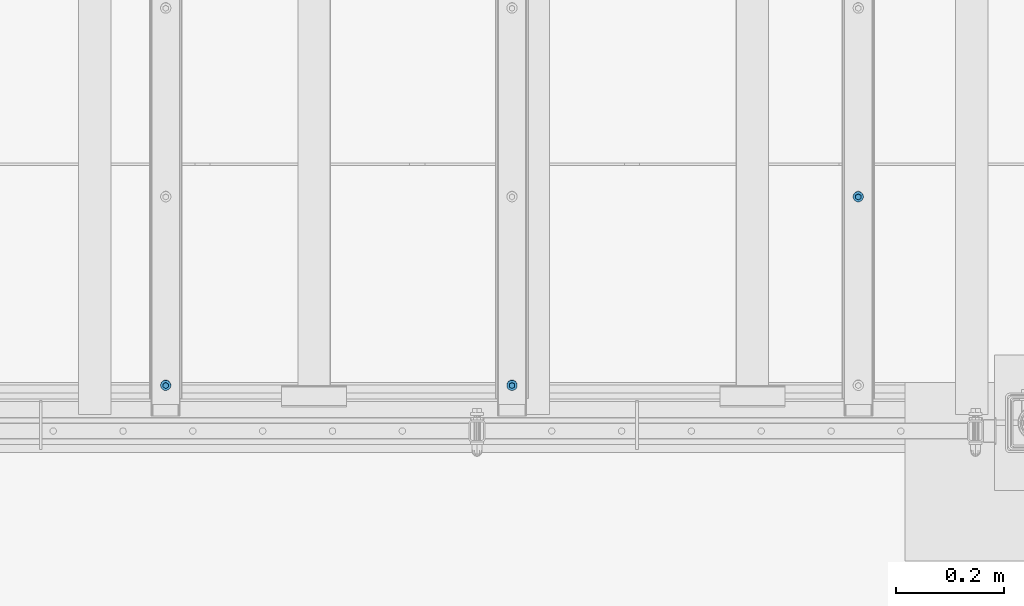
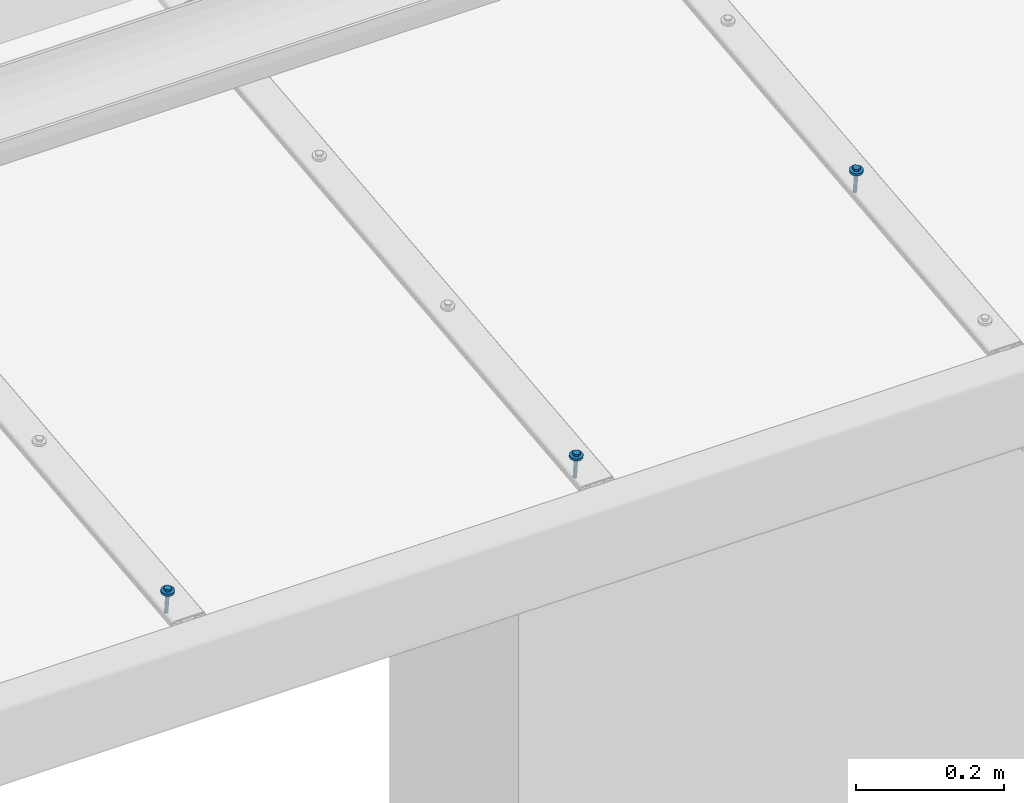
# One storey, part 71 of 162: 3 mechanical fasteners.
"""IFC2X3 building model written with IfcOpenShell, lengths in millimetres."""

from ifc_helpers import new_model, entity, si_unit, converted_unit, origin_with_axes, place, context, project, spatial, faceted_brep, element, save


model = new_model("IFC2X3")

# Units and contexts
model_context = context("Model", 3, precision=1e-09, world=origin_with_axes())
ifc_project = project(units=[si_unit("LENGTHUNIT", "METRE", prefix="MILLI"), si_unit("AREAUNIT", "SQUARE_METRE"), si_unit("VOLUMEUNIT", "CUBIC_METRE"), converted_unit("PLANEANGLEUNIT", "DEGREE", entity("IfcPlaneAngleMeasure", 0.01745329), si_unit("PLANEANGLEUNIT", "RADIAN"), dimensions=[0, 0, 0, 0, 0, 0, 0])], contexts=[model_context])

# Site, building, storey
site_placement = place(None, origin_with_axes())
site = spatial("IfcSite", under=ifc_project, at=site_placement, Name="Hermannstra?e 1a, 60318 Frankfurt", CompositionType="ELEMENT")
building_placement = place(site_placement, origin_with_axes())
building = spatial("IfcBuilding", under=site, at=building_placement, Name="Struktur 1", CompositionType="ELEMENT")
storey_placement = place(building_placement, origin_with_axes())
storey = spatial("IfcBuildingStorey", under=building, at=storey_placement, Name="Default Storey", CompositionType="ELEMENT", Elevation=0.0)

# Mechanical fasteners
mechanical_fastener_1_placement = place(None, origin_with_axes())
element("IfcMechanicalFastener", 1, at=mechanical_fastener_1_placement, inside=storey, ObjectType="-", NominalDiameter=6.0, NominalLength=40.0, context=model_context, shape_type="Brep", body=[
    faceted_brep([(5137.309364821, 1947.952940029, 17450.481034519), (5137.309364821, 1948.371053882, 17446.502946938), (5137.491904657, 1946.527848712, 17446.309218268), (5137.491904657, 1946.109734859, 17450.28730585), (5138.032509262, 1944.755476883, 17446.122934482), (5138.032509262, 1944.33736303, 17450.101022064), (5138.910403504, 1943.122049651, 17445.951254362), (5138.910403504, 1942.703935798, 17449.929341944), (5140.0918504, 1941.690338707, 17445.800775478), (5140.0918504, 1941.272224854, 17449.77886306), (5141.531447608, 1940.515363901, 17445.67728065), (5141.531447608, 1940.097250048, 17449.655368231), (5143.173872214, 1939.642278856, 17445.585515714), (5143.173872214, 1939.224165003, 17449.563603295), (5144.956006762, 1939.10463574, 17445.529007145), (5144.956006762, 1938.686521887, 17449.507094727), (5146.809364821, 1938.923095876, 17445.509926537), (5146.809364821, 1938.504982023, 17449.488014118), (5148.66272288, 1939.10463574, 17445.529007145), (5148.66272288, 1938.686521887, 17449.507094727), (5150.444857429, 1939.642278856, 17445.585515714), (5150.444857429, 1939.224165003, 17449.563603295), (5152.087282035, 1940.515363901, 17445.67728065), (5152.087282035, 1940.097250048, 17449.655368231), (5153.526879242, 1941.690338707, 17445.800775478), (5153.526879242, 1941.272224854, 17449.77886306), (5154.708326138, 1943.122049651, 17445.951254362), (5154.708326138, 1942.703935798, 17449.929341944), (5155.58622038, 1944.755476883, 17446.122934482), (5155.58622038, 1944.33736303, 17450.101022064), (5156.126824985, 1946.527848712, 17446.309218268), (5156.126824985, 1946.109734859, 17450.28730585), (5156.309364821, 1948.371053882, 17446.502946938), (5156.309364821, 1947.952940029, 17450.481034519), (5156.126824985, 1950.214259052, 17446.696675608), (5156.126824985, 1949.796145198, 17450.674763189), (5155.58622038, 1951.98663088, 17446.882959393), (5155.58622038, 1951.568517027, 17450.861046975), (5154.708326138, 1953.620058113, 17447.054639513), (5154.708326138, 1953.20194426, 17451.032727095), (5153.526879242, 1955.051769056, 17447.205118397), (5153.526879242, 1954.633655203, 17451.183205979), (5152.087282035, 1956.226743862, 17447.328613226), (5152.087282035, 1955.808630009, 17451.306700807), (5150.444857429, 1957.099828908, 17447.420378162), (5150.444857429, 1956.681715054, 17451.398465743), (5148.66272288, 1957.637472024, 17447.47688673), (5148.66272288, 1957.219358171, 17451.454974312), (5146.809364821, 1957.819011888, 17447.495967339), (5146.809364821, 1957.400898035, 17451.47405492), (5144.956006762, 1957.637472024, 17447.47688673), (5144.956006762, 1957.219358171, 17451.454974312), (5143.173872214, 1957.099828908, 17447.420378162), (5143.173872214, 1956.681715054, 17451.398465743), (5141.531447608, 1956.226743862, 17447.328613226), (5141.531447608, 1955.808630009, 17451.306700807), (5140.0918504, 1955.051769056, 17447.205118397), (5140.0918504, 1954.633655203, 17451.183205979), (5138.910403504, 1953.620058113, 17447.054639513), (5138.910403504, 1953.20194426, 17451.032727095), (5138.032509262, 1951.98663088, 17446.882959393), (5138.032509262, 1951.568517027, 17450.861046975), (5137.491904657, 1950.214259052, 17446.696675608), (5137.491904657, 1949.796145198, 17450.674763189)], [[[0, 1, 2, 3]], [[3, 2, 4, 5]], [[5, 4, 6, 7]], [[7, 6, 8, 9]], [[9, 8, 10, 11]], [[11, 10, 12, 13]], [[13, 12, 14, 15]], [[15, 14, 16, 17]], [[17, 16, 18, 19]], [[19, 18, 20, 21]], [[21, 20, 22, 23]], [[23, 22, 24, 25]], [[25, 24, 26, 27]], [[27, 26, 28, 29]], [[29, 28, 30, 31]], [[31, 30, 32, 33]], [[33, 32, 34, 35]], [[35, 34, 36, 37]], [[37, 36, 38, 39]], [[39, 38, 40, 41]], [[41, 40, 42, 43]], [[43, 42, 44, 45]], [[45, 44, 46, 47]], [[47, 46, 48, 49]], [[49, 48, 50, 51]], [[51, 50, 52, 53]], [[53, 52, 54, 55]], [[55, 54, 56, 57]], [[57, 56, 58, 59]], [[59, 58, 60, 61]], [[61, 60, 62, 63]], [[63, 62, 1, 0]], [[0, 3, 5, 7, 9, 11, 13, 15, 17, 19, 21, 23, 25, 27, 29, 31, 33, 35, 37, 39, 41, 43, 45, 47, 49, 51, 53, 55, 57, 59, 61, 63]], [[1, 62, 60, 58, 56, 54, 52, 50, 48, 46, 44, 42, 40, 38, 36, 34, 32, 30, 28, 26, 24, 22, 20, 18, 16, 14, 12, 10, 8, 6, 4, 2]]]),
    faceted_brep([(5151.594155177, 1945.205573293, 17450.19227464), (5151.594155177, 1944.78745944, 17454.170362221), (5146.809364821, 1942.040092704, 17453.881602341), (5146.809364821, 1942.458206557, 17449.90351476), (5142.024574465, 1944.78745944, 17454.170362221), (5142.024574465, 1945.205573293, 17450.19227464), (5142.024574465, 1950.282192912, 17454.747881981), (5142.024574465, 1950.700306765, 17450.769794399), (5146.809364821, 1953.029559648, 17455.03664186), (5146.809364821, 1953.447673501, 17451.058554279), (5151.594155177, 1950.282192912, 17454.747881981), (5151.594155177, 1950.700306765, 17450.769794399)], [[[0, 1, 2, 3]], [[3, 2, 4, 5]], [[5, 4, 6, 7]], [[7, 6, 8, 9]], [[9, 8, 10, 11]], [[11, 10, 1, 0]], [[4, 2, 1, 10, 8, 6]], [[0, 3, 5, 7, 9, 11]]]),
    faceted_brep([(5143.809364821, 1948.371053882, 17446.502946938), (5143.809364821, 1951.715964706, 17414.678246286), (5144.037726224, 1950.574203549, 17414.558242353), (5144.037726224, 1947.229292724, 17446.382943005), (5144.688044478, 1949.606265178, 17414.45650793), (5144.688044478, 1946.261354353, 17446.281208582), (5145.661314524, 1948.959509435, 17414.388531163), (5145.661314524, 1945.61459861, 17446.213231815), (5146.809364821, 1948.73239902, 17414.364660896), (5146.809364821, 1945.387488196, 17446.189361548), (5147.957415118, 1948.959509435, 17414.388531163), (5147.957415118, 1945.61459861, 17446.213231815), (5148.930685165, 1949.606265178, 17414.45650793), (5148.930685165, 1946.261354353, 17446.281208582), (5149.581003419, 1950.574203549, 17414.558242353), (5149.581003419, 1947.229292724, 17446.382943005), (5149.809364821, 1951.715964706, 17414.678246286), (5149.809364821, 1948.371053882, 17446.502946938), (5149.581003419, 1952.857725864, 17414.798250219), (5149.581003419, 1949.512815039, 17446.622950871), (5148.930685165, 1953.825664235, 17414.899984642), (5148.930685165, 1950.480753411, 17446.724685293), (5147.957415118, 1954.472419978, 17414.967961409), (5147.957415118, 1951.127509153, 17446.792662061), (5146.809364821, 1954.699530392, 17414.991831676), (5146.809364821, 1951.354619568, 17446.816532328), (5145.661314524, 1954.472419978, 17414.967961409), (5145.661314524, 1951.127509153, 17446.792662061), (5144.688044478, 1953.825664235, 17414.899984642), (5144.688044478, 1950.480753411, 17446.724685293), (5144.037726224, 1952.857725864, 17414.798250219), (5144.037726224, 1949.512815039, 17446.622950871)], [[[0, 1, 2, 3]], [[3, 2, 4, 5]], [[5, 4, 6, 7]], [[7, 6, 8, 9]], [[9, 8, 10, 11]], [[11, 10, 12, 13]], [[13, 12, 14, 15]], [[15, 14, 16, 17]], [[17, 16, 18, 19]], [[19, 18, 20, 21]], [[21, 20, 22, 23]], [[23, 22, 24, 25]], [[25, 24, 26, 27]], [[27, 26, 28, 29]], [[29, 28, 30, 31]], [[31, 30, 1, 0]], [[0, 3, 5, 7, 9, 11, 13, 15, 17, 19, 21, 23, 25, 27, 29, 31]], [[1, 30, 28, 26, 24, 22, 20, 18, 16, 14, 12, 10, 8, 6, 4, 2]]]),
    faceted_brep([(5143.809364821, 1951.715964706, 17414.678246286), (5143.809364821, 1952.134078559, 17410.700158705), (5144.037726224, 1950.992317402, 17410.580154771), (5144.037726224, 1950.574203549, 17414.558242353), (5144.688044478, 1950.024379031, 17410.478420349), (5144.688044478, 1949.606265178, 17414.45650793), (5145.661314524, 1949.377623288, 17410.410443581), (5145.661314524, 1948.959509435, 17414.388531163), (5146.809364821, 1949.150512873, 17410.386573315), (5146.809364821, 1948.73239902, 17414.364660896), (5147.957415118, 1949.377623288, 17410.410443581), (5147.957415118, 1948.959509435, 17414.388531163), (5148.930685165, 1950.024379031, 17410.478420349), (5148.930685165, 1949.606265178, 17414.45650793), (5149.581003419, 1950.992317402, 17410.580154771), (5149.581003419, 1950.574203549, 17414.558242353), (5149.809364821, 1952.134078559, 17410.700158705), (5149.809364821, 1951.715964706, 17414.678246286), (5149.581003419, 1953.275839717, 17410.820162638), (5149.581003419, 1952.857725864, 17414.798250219), (5148.930685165, 1954.243778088, 17410.92189706), (5148.930685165, 1953.825664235, 17414.899984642), (5147.957415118, 1954.890533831, 17410.989873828), (5147.957415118, 1954.472419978, 17414.967961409), (5146.809364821, 1955.117644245, 17411.013744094), (5146.809364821, 1954.699530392, 17414.991831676), (5145.661314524, 1954.890533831, 17410.989873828), (5145.661314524, 1954.472419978, 17414.967961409), (5144.688044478, 1954.243778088, 17410.92189706), (5144.688044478, 1953.825664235, 17414.899984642), (5144.037726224, 1953.275839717, 17410.820162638), (5144.037726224, 1952.857725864, 17414.798250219)], [[[0, 1, 2, 3]], [[3, 2, 4, 5]], [[5, 4, 6, 7]], [[7, 6, 8, 9]], [[9, 8, 10, 11]], [[11, 10, 12, 13]], [[13, 12, 14, 15]], [[15, 14, 16, 17]], [[17, 16, 18, 19]], [[19, 18, 20, 21]], [[21, 20, 22, 23]], [[23, 22, 24, 25]], [[25, 24, 26, 27]], [[27, 26, 28, 29]], [[29, 28, 30, 31]], [[31, 30, 1, 0]], [[0, 3, 5, 7, 9, 11, 13, 15, 17, 19, 21, 23, 25, 27, 29, 31]], [[1, 30, 28, 26, 24, 22, 20, 18, 16, 14, 12, 10, 8, 6, 4, 2]]]),
])
mechanical_fastener_2_placement = place(None, origin_with_axes())
element("IfcMechanicalFastener", 2, at=mechanical_fastener_2_placement, inside=storey, ObjectType="-", NominalDiameter=6.0, NominalLength=40.0, context=model_context, shape_type="Brep", body=[
    faceted_brep([(3859.309364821, 1599.87027665, 17413.896072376), (3859.309364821, 1600.288390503, 17409.917984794), (3859.491904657, 1598.445185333, 17409.724256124), (3859.491904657, 1598.02707148, 17413.702343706), (3860.032509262, 1596.672813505, 17409.537972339), (3860.032509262, 1596.254699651, 17413.51605992), (3860.910403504, 1595.039386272, 17409.366292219), (3860.910403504, 1594.621272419, 17413.3443798), (3862.0918504, 1593.607675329, 17409.215813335), (3862.0918504, 1593.189561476, 17413.193900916), (3863.531447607, 1592.432700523, 17409.092318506), (3863.531447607, 1592.01458667, 17413.070406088), (3865.173872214, 1591.559615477, 17409.00055357), (3865.173872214, 1591.141501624, 17412.978641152), (3866.956006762, 1591.021972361, 17408.944045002), (3866.956006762, 1590.603858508, 17412.922132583), (3868.809364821, 1590.840432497, 17408.924964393), (3868.809364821, 1590.422318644, 17412.903051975), (3870.66272288, 1591.021972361, 17408.944045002), (3870.66272288, 1590.603858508, 17412.922132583), (3872.444857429, 1591.559615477, 17409.00055357), (3872.444857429, 1591.141501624, 17412.978641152), (3874.087282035, 1592.432700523, 17409.092318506), (3874.087282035, 1592.01458667, 17413.070406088), (3875.526879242, 1593.607675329, 17409.215813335), (3875.526879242, 1593.189561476, 17413.193900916), (3876.708326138, 1595.039386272, 17409.366292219), (3876.708326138, 1594.621272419, 17413.3443798), (3877.58622038, 1596.672813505, 17409.537972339), (3877.58622038, 1596.254699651, 17413.51605992), (3878.126824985, 1598.445185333, 17409.724256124), (3878.126824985, 1598.02707148, 17413.702343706), (3878.309364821, 1600.288390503, 17409.917984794), (3878.309364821, 1599.87027665, 17413.896072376), (3878.126824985, 1602.131595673, 17410.111713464), (3878.126824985, 1601.71348182, 17414.089801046), (3877.58622038, 1603.903967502, 17410.29799725), (3877.58622038, 1603.485853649, 17414.276084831), (3876.708326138, 1605.537394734, 17410.46967737), (3876.708326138, 1605.119280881, 17414.447764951), (3875.526879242, 1606.969105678, 17410.620156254), (3875.526879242, 1606.550991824, 17414.598243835), (3874.087282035, 1608.144080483, 17410.743651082), (3874.087282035, 1607.72596663, 17414.721738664), (3872.444857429, 1609.017165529, 17410.835416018), (3872.444857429, 1608.599051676, 17414.8135036), (3870.66272288, 1609.554808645, 17410.891924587), (3870.66272288, 1609.136694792, 17414.870012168), (3868.809364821, 1609.736348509, 17410.911005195), (3868.809364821, 1609.318234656, 17414.889092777), (3866.956006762, 1609.554808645, 17410.891924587), (3866.956006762, 1609.136694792, 17414.870012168), (3865.173872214, 1609.017165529, 17410.835416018), (3865.173872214, 1608.599051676, 17414.8135036), (3863.531447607, 1608.144080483, 17410.743651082), (3863.531447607, 1607.72596663, 17414.721738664), (3862.0918504, 1606.969105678, 17410.620156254), (3862.0918504, 1606.550991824, 17414.598243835), (3860.910403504, 1605.537394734, 17410.46967737), (3860.910403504, 1605.119280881, 17414.447764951), (3860.032509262, 1603.903967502, 17410.29799725), (3860.032509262, 1603.485853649, 17414.276084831), (3859.491904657, 1602.131595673, 17410.111713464), (3859.491904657, 1601.71348182, 17414.089801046)], [[[0, 1, 2, 3]], [[3, 2, 4, 5]], [[5, 4, 6, 7]], [[7, 6, 8, 9]], [[9, 8, 10, 11]], [[11, 10, 12, 13]], [[13, 12, 14, 15]], [[15, 14, 16, 17]], [[17, 16, 18, 19]], [[19, 18, 20, 21]], [[21, 20, 22, 23]], [[23, 22, 24, 25]], [[25, 24, 26, 27]], [[27, 26, 28, 29]], [[29, 28, 30, 31]], [[31, 30, 32, 33]], [[33, 32, 34, 35]], [[35, 34, 36, 37]], [[37, 36, 38, 39]], [[39, 38, 40, 41]], [[41, 40, 42, 43]], [[43, 42, 44, 45]], [[45, 44, 46, 47]], [[47, 46, 48, 49]], [[49, 48, 50, 51]], [[51, 50, 52, 53]], [[53, 52, 54, 55]], [[55, 54, 56, 57]], [[57, 56, 58, 59]], [[59, 58, 60, 61]], [[61, 60, 62, 63]], [[63, 62, 1, 0]], [[0, 3, 5, 7, 9, 11, 13, 15, 17, 19, 21, 23, 25, 27, 29, 31, 33, 35, 37, 39, 41, 43, 45, 47, 49, 51, 53, 55, 57, 59, 61, 63]], [[1, 62, 60, 58, 56, 54, 52, 50, 48, 46, 44, 42, 40, 38, 36, 34, 32, 30, 28, 26, 24, 22, 20, 18, 16, 14, 12, 10, 8, 6, 4, 2]]]),
    faceted_brep([(3873.594155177, 1597.122909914, 17413.607312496), (3873.594155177, 1596.704796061, 17417.585400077), (3868.809364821, 1593.957429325, 17417.296640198), (3868.809364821, 1594.375543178, 17413.318552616), (3864.024574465, 1596.704796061, 17417.585400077), (3864.024574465, 1597.122909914, 17413.607312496), (3864.024574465, 1602.199529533, 17418.162919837), (3864.024574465, 1602.617643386, 17414.184832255), (3868.809364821, 1604.946896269, 17418.451679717), (3868.809364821, 1605.365010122, 17414.473592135), (3873.594155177, 1602.199529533, 17418.162919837), (3873.594155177, 1602.617643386, 17414.184832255)], [[[0, 1, 2, 3]], [[3, 2, 4, 5]], [[5, 4, 6, 7]], [[7, 6, 8, 9]], [[9, 8, 10, 11]], [[11, 10, 1, 0]], [[4, 2, 1, 10, 8, 6]], [[0, 3, 5, 7, 9, 11]]]),
    faceted_brep([(3865.809364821, 1600.288390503, 17409.917984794), (3865.809364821, 1603.633301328, 17378.093284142), (3866.037726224, 1602.49154017, 17377.973280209), (3866.037726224, 1599.146629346, 17409.797980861), (3866.688044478, 1601.523601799, 17377.871545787), (3866.688044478, 1598.178690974, 17409.696246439), (3867.661314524, 1600.876846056, 17377.803569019), (3867.661314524, 1597.531935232, 17409.628269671), (3868.809364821, 1600.649735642, 17377.779698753), (3868.809364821, 1597.304824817, 17409.604399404), (3869.957415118, 1600.876846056, 17377.803569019), (3869.957415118, 1597.531935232, 17409.628269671), (3870.930685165, 1601.523601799, 17377.871545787), (3870.930685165, 1598.178690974, 17409.696246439), (3871.581003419, 1602.49154017, 17377.973280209), (3871.581003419, 1599.146629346, 17409.797980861), (3871.809364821, 1603.633301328, 17378.093284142), (3871.809364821, 1600.288390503, 17409.917984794), (3871.581003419, 1604.775062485, 17378.213288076), (3871.581003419, 1601.430151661, 17410.037988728), (3870.930685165, 1605.743000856, 17378.315022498), (3870.930685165, 1602.398090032, 17410.13972315), (3869.957415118, 1606.389756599, 17378.382999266), (3869.957415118, 1603.044845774, 17410.207699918), (3868.809364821, 1606.616867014, 17378.406869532), (3868.809364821, 1603.271956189, 17410.231570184), (3867.661314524, 1606.389756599, 17378.382999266), (3867.661314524, 1603.044845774, 17410.207699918), (3866.688044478, 1605.743000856, 17378.315022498), (3866.688044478, 1602.398090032, 17410.13972315), (3866.037726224, 1604.775062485, 17378.213288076), (3866.037726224, 1601.430151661, 17410.037988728)], [[[0, 1, 2, 3]], [[3, 2, 4, 5]], [[5, 4, 6, 7]], [[7, 6, 8, 9]], [[9, 8, 10, 11]], [[11, 10, 12, 13]], [[13, 12, 14, 15]], [[15, 14, 16, 17]], [[17, 16, 18, 19]], [[19, 18, 20, 21]], [[21, 20, 22, 23]], [[23, 22, 24, 25]], [[25, 24, 26, 27]], [[27, 26, 28, 29]], [[29, 28, 30, 31]], [[31, 30, 1, 0]], [[0, 3, 5, 7, 9, 11, 13, 15, 17, 19, 21, 23, 25, 27, 29, 31]], [[1, 30, 28, 26, 24, 22, 20, 18, 16, 14, 12, 10, 8, 6, 4, 2]]]),
    faceted_brep([(3865.809364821, 1603.633301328, 17378.093284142), (3865.809364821, 1604.051415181, 17374.115196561), (3866.037726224, 1602.909654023, 17373.995192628), (3866.037726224, 1602.49154017, 17377.973280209), (3866.688044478, 1601.941715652, 17373.893458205), (3866.688044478, 1601.523601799, 17377.871545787), (3867.661314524, 1601.294959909, 17373.825481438), (3867.661314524, 1600.876846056, 17377.803569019), (3868.809364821, 1601.067849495, 17373.801611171), (3868.809364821, 1600.649735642, 17377.779698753), (3869.957415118, 1601.294959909, 17373.825481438), (3869.957415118, 1600.876846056, 17377.803569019), (3870.930685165, 1601.941715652, 17373.893458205), (3870.930685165, 1601.523601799, 17377.871545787), (3871.581003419, 1602.909654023, 17373.995192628), (3871.581003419, 1602.49154017, 17377.973280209), (3871.809364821, 1604.051415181, 17374.115196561), (3871.809364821, 1603.633301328, 17378.093284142), (3871.581003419, 1605.193176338, 17374.235200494), (3871.581003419, 1604.775062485, 17378.213288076), (3870.930685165, 1606.161114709, 17374.336934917), (3870.930685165, 1605.743000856, 17378.315022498), (3869.957415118, 1606.807870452, 17374.404911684), (3869.957415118, 1606.389756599, 17378.382999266), (3868.809364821, 1607.034980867, 17374.428781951), (3868.809364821, 1606.616867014, 17378.406869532), (3867.661314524, 1606.807870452, 17374.404911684), (3867.661314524, 1606.389756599, 17378.382999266), (3866.688044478, 1606.161114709, 17374.336934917), (3866.688044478, 1605.743000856, 17378.315022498), (3866.037726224, 1605.193176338, 17374.235200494), (3866.037726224, 1604.775062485, 17378.213288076)], [[[0, 1, 2, 3]], [[3, 2, 4, 5]], [[5, 4, 6, 7]], [[7, 6, 8, 9]], [[9, 8, 10, 11]], [[11, 10, 12, 13]], [[13, 12, 14, 15]], [[15, 14, 16, 17]], [[17, 16, 18, 19]], [[19, 18, 20, 21]], [[21, 20, 22, 23]], [[23, 22, 24, 25]], [[25, 24, 26, 27]], [[27, 26, 28, 29]], [[29, 28, 30, 31]], [[31, 30, 1, 0]], [[0, 3, 5, 7, 9, 11, 13, 15, 17, 19, 21, 23, 25, 27, 29, 31]], [[1, 30, 28, 26, 24, 22, 20, 18, 16, 14, 12, 10, 8, 6, 4, 2]]]),
])
mechanical_fastener_3_placement = place(None, origin_with_axes())
element("IfcMechanicalFastener", 3, at=mechanical_fastener_3_placement, inside=storey, ObjectType="-", NominalDiameter=6.0, NominalLength=40.0, context=model_context, shape_type="Brep", body=[
    faceted_brep([(4498.309364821, 1599.87027665, 17413.896072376), (4498.309364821, 1600.288390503, 17409.917984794), (4498.491904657, 1598.445185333, 17409.724256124), (4498.491904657, 1598.02707148, 17413.702343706), (4499.032509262, 1596.672813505, 17409.537972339), (4499.032509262, 1596.254699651, 17413.51605992), (4499.910403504, 1595.039386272, 17409.366292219), (4499.910403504, 1594.621272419, 17413.3443798), (4501.0918504, 1593.607675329, 17409.215813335), (4501.0918504, 1593.189561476, 17413.193900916), (4502.531447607, 1592.432700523, 17409.092318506), (4502.531447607, 1592.01458667, 17413.070406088), (4504.173872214, 1591.559615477, 17409.00055357), (4504.173872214, 1591.141501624, 17412.978641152), (4505.956006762, 1591.021972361, 17408.944045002), (4505.956006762, 1590.603858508, 17412.922132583), (4507.809364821, 1590.840432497, 17408.924964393), (4507.809364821, 1590.422318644, 17412.903051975), (4509.66272288, 1591.021972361, 17408.944045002), (4509.66272288, 1590.603858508, 17412.922132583), (4511.444857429, 1591.559615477, 17409.00055357), (4511.444857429, 1591.141501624, 17412.978641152), (4513.087282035, 1592.432700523, 17409.092318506), (4513.087282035, 1592.01458667, 17413.070406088), (4514.526879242, 1593.607675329, 17409.215813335), (4514.526879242, 1593.189561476, 17413.193900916), (4515.708326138, 1595.039386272, 17409.366292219), (4515.708326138, 1594.621272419, 17413.3443798), (4516.58622038, 1596.672813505, 17409.537972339), (4516.58622038, 1596.254699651, 17413.51605992), (4517.126824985, 1598.445185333, 17409.724256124), (4517.126824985, 1598.02707148, 17413.702343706), (4517.309364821, 1600.288390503, 17409.917984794), (4517.309364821, 1599.87027665, 17413.896072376), (4517.126824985, 1602.131595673, 17410.111713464), (4517.126824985, 1601.71348182, 17414.089801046), (4516.58622038, 1603.903967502, 17410.29799725), (4516.58622038, 1603.485853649, 17414.276084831), (4515.708326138, 1605.537394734, 17410.46967737), (4515.708326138, 1605.119280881, 17414.447764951), (4514.526879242, 1606.969105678, 17410.620156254), (4514.526879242, 1606.550991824, 17414.598243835), (4513.087282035, 1608.144080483, 17410.743651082), (4513.087282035, 1607.72596663, 17414.721738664), (4511.444857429, 1609.017165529, 17410.835416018), (4511.444857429, 1608.599051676, 17414.8135036), (4509.66272288, 1609.554808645, 17410.891924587), (4509.66272288, 1609.136694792, 17414.870012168), (4507.809364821, 1609.736348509, 17410.911005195), (4507.809364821, 1609.318234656, 17414.889092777), (4505.956006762, 1609.554808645, 17410.891924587), (4505.956006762, 1609.136694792, 17414.870012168), (4504.173872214, 1609.017165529, 17410.835416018), (4504.173872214, 1608.599051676, 17414.8135036), (4502.531447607, 1608.144080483, 17410.743651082), (4502.531447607, 1607.72596663, 17414.721738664), (4501.0918504, 1606.969105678, 17410.620156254), (4501.0918504, 1606.550991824, 17414.598243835), (4499.910403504, 1605.537394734, 17410.46967737), (4499.910403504, 1605.119280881, 17414.447764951), (4499.032509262, 1603.903967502, 17410.29799725), (4499.032509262, 1603.485853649, 17414.276084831), (4498.491904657, 1602.131595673, 17410.111713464), (4498.491904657, 1601.71348182, 17414.089801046)], [[[0, 1, 2, 3]], [[3, 2, 4, 5]], [[5, 4, 6, 7]], [[7, 6, 8, 9]], [[9, 8, 10, 11]], [[11, 10, 12, 13]], [[13, 12, 14, 15]], [[15, 14, 16, 17]], [[17, 16, 18, 19]], [[19, 18, 20, 21]], [[21, 20, 22, 23]], [[23, 22, 24, 25]], [[25, 24, 26, 27]], [[27, 26, 28, 29]], [[29, 28, 30, 31]], [[31, 30, 32, 33]], [[33, 32, 34, 35]], [[35, 34, 36, 37]], [[37, 36, 38, 39]], [[39, 38, 40, 41]], [[41, 40, 42, 43]], [[43, 42, 44, 45]], [[45, 44, 46, 47]], [[47, 46, 48, 49]], [[49, 48, 50, 51]], [[51, 50, 52, 53]], [[53, 52, 54, 55]], [[55, 54, 56, 57]], [[57, 56, 58, 59]], [[59, 58, 60, 61]], [[61, 60, 62, 63]], [[63, 62, 1, 0]], [[0, 3, 5, 7, 9, 11, 13, 15, 17, 19, 21, 23, 25, 27, 29, 31, 33, 35, 37, 39, 41, 43, 45, 47, 49, 51, 53, 55, 57, 59, 61, 63]], [[1, 62, 60, 58, 56, 54, 52, 50, 48, 46, 44, 42, 40, 38, 36, 34, 32, 30, 28, 26, 24, 22, 20, 18, 16, 14, 12, 10, 8, 6, 4, 2]]]),
    faceted_brep([(4512.594155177, 1597.122909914, 17413.607312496), (4512.594155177, 1596.704796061, 17417.585400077), (4507.809364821, 1593.957429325, 17417.296640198), (4507.809364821, 1594.375543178, 17413.318552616), (4503.024574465, 1596.704796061, 17417.585400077), (4503.024574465, 1597.122909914, 17413.607312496), (4503.024574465, 1602.199529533, 17418.162919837), (4503.024574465, 1602.617643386, 17414.184832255), (4507.809364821, 1604.946896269, 17418.451679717), (4507.809364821, 1605.365010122, 17414.473592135), (4512.594155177, 1602.199529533, 17418.162919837), (4512.594155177, 1602.617643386, 17414.184832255)], [[[0, 1, 2, 3]], [[3, 2, 4, 5]], [[5, 4, 6, 7]], [[7, 6, 8, 9]], [[9, 8, 10, 11]], [[11, 10, 1, 0]], [[4, 2, 1, 10, 8, 6]], [[0, 3, 5, 7, 9, 11]]]),
    faceted_brep([(4504.809364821, 1600.288390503, 17409.917984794), (4504.809364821, 1603.633301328, 17378.093284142), (4505.037726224, 1602.49154017, 17377.973280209), (4505.037726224, 1599.146629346, 17409.797980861), (4505.688044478, 1601.523601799, 17377.871545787), (4505.688044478, 1598.178690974, 17409.696246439), (4506.661314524, 1600.876846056, 17377.803569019), (4506.661314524, 1597.531935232, 17409.628269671), (4507.809364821, 1600.649735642, 17377.779698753), (4507.809364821, 1597.304824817, 17409.604399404), (4508.957415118, 1600.876846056, 17377.803569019), (4508.957415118, 1597.531935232, 17409.628269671), (4509.930685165, 1601.523601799, 17377.871545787), (4509.930685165, 1598.178690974, 17409.696246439), (4510.581003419, 1602.49154017, 17377.973280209), (4510.581003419, 1599.146629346, 17409.797980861), (4510.809364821, 1603.633301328, 17378.093284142), (4510.809364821, 1600.288390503, 17409.917984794), (4510.581003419, 1604.775062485, 17378.213288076), (4510.581003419, 1601.430151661, 17410.037988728), (4509.930685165, 1605.743000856, 17378.315022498), (4509.930685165, 1602.398090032, 17410.13972315), (4508.957415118, 1606.389756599, 17378.382999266), (4508.957415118, 1603.044845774, 17410.207699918), (4507.809364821, 1606.616867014, 17378.406869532), (4507.809364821, 1603.271956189, 17410.231570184), (4506.661314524, 1606.389756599, 17378.382999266), (4506.661314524, 1603.044845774, 17410.207699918), (4505.688044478, 1605.743000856, 17378.315022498), (4505.688044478, 1602.398090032, 17410.13972315), (4505.037726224, 1604.775062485, 17378.213288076), (4505.037726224, 1601.430151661, 17410.037988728)], [[[0, 1, 2, 3]], [[3, 2, 4, 5]], [[5, 4, 6, 7]], [[7, 6, 8, 9]], [[9, 8, 10, 11]], [[11, 10, 12, 13]], [[13, 12, 14, 15]], [[15, 14, 16, 17]], [[17, 16, 18, 19]], [[19, 18, 20, 21]], [[21, 20, 22, 23]], [[23, 22, 24, 25]], [[25, 24, 26, 27]], [[27, 26, 28, 29]], [[29, 28, 30, 31]], [[31, 30, 1, 0]], [[0, 3, 5, 7, 9, 11, 13, 15, 17, 19, 21, 23, 25, 27, 29, 31]], [[1, 30, 28, 26, 24, 22, 20, 18, 16, 14, 12, 10, 8, 6, 4, 2]]]),
    faceted_brep([(4504.809364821, 1603.633301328, 17378.093284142), (4504.809364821, 1604.051415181, 17374.115196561), (4505.037726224, 1602.909654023, 17373.995192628), (4505.037726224, 1602.49154017, 17377.973280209), (4505.688044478, 1601.941715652, 17373.893458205), (4505.688044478, 1601.523601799, 17377.871545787), (4506.661314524, 1601.294959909, 17373.825481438), (4506.661314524, 1600.876846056, 17377.803569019), (4507.809364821, 1601.067849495, 17373.801611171), (4507.809364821, 1600.649735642, 17377.779698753), (4508.957415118, 1601.294959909, 17373.825481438), (4508.957415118, 1600.876846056, 17377.803569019), (4509.930685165, 1601.941715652, 17373.893458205), (4509.930685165, 1601.523601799, 17377.871545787), (4510.581003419, 1602.909654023, 17373.995192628), (4510.581003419, 1602.49154017, 17377.973280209), (4510.809364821, 1604.051415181, 17374.115196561), (4510.809364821, 1603.633301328, 17378.093284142), (4510.581003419, 1605.193176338, 17374.235200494), (4510.581003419, 1604.775062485, 17378.213288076), (4509.930685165, 1606.161114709, 17374.336934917), (4509.930685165, 1605.743000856, 17378.315022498), (4508.957415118, 1606.807870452, 17374.404911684), (4508.957415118, 1606.389756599, 17378.382999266), (4507.809364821, 1607.034980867, 17374.428781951), (4507.809364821, 1606.616867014, 17378.406869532), (4506.661314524, 1606.807870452, 17374.404911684), (4506.661314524, 1606.389756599, 17378.382999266), (4505.688044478, 1606.161114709, 17374.336934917), (4505.688044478, 1605.743000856, 17378.315022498), (4505.037726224, 1605.193176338, 17374.235200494), (4505.037726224, 1604.775062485, 17378.213288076)], [[[0, 1, 2, 3]], [[3, 2, 4, 5]], [[5, 4, 6, 7]], [[7, 6, 8, 9]], [[9, 8, 10, 11]], [[11, 10, 12, 13]], [[13, 12, 14, 15]], [[15, 14, 16, 17]], [[17, 16, 18, 19]], [[19, 18, 20, 21]], [[21, 20, 22, 23]], [[23, 22, 24, 25]], [[25, 24, 26, 27]], [[27, 26, 28, 29]], [[29, 28, 30, 31]], [[31, 30, 1, 0]], [[0, 3, 5, 7, 9, 11, 13, 15, 17, 19, 21, 23, 25, 27, 29, 31]], [[1, 30, 28, 26, 24, 22, 20, 18, 16, 14, 12, 10, 8, 6, 4, 2]]]),
])

save(model, "model.ifc")
